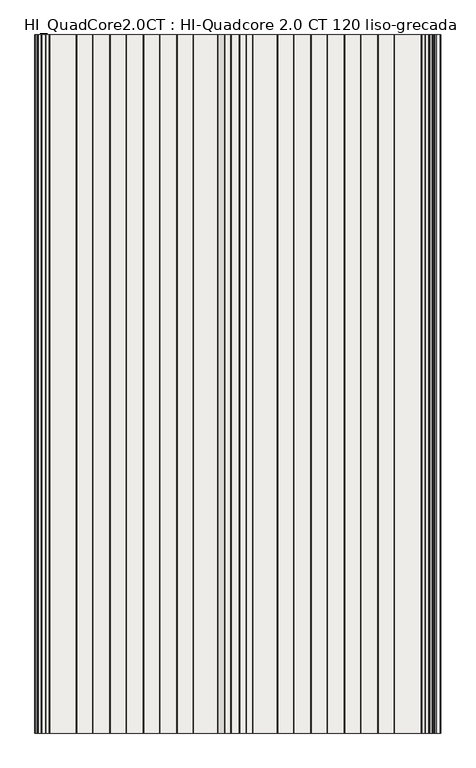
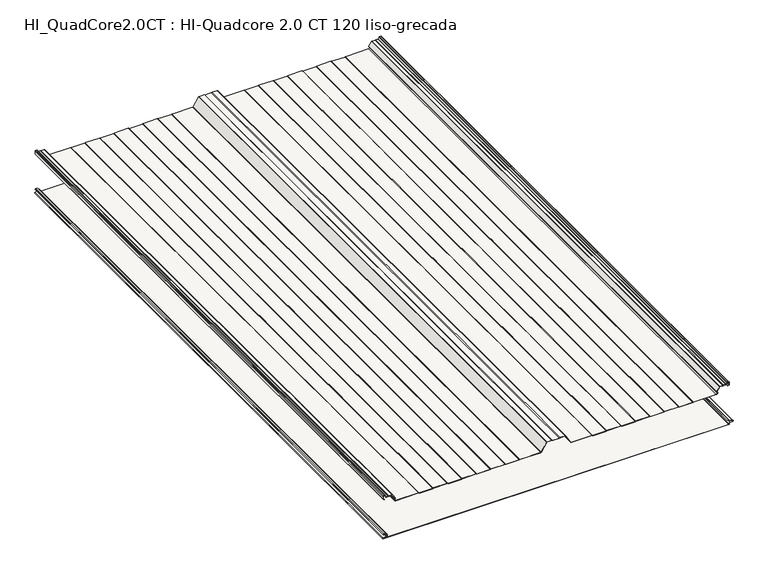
"""IFC4 building model written with IfcOpenShell, lengths in millimetres: slab geometry, HI_QuadCore2.0CT : HI-Quadcore 2.0 CT 120 liso-grecada."""

from ifc_helpers import new_model, si_unit, point, frame, frame_2d, origin, place, context, project, spatial, polyline, circle_curve, trimmed, segment, composite_curve, outline, extrude, source, transform, mapped, element, save
from ifc_brep_helpers import plane_surface, cylinder_surface, revolved_surface, advanced_brep


def hi_quadcore2_0ct_hi_quadcore_2_0_ct_120_liso_grecada_508893d8(model_context):
    return source(origin(), model_context, "Body", "SolidModel", [
        advanced_brep(
        [(1153.6125412, 0.0, 16.239302), (1151.6320413, 0.0, 14.2588021), (1153.3026044, 0.0, 12.2960661), (1161.7027672, 0.0, 10.9645747), (1161.6806488, 0.0, 5.2720118), (1151.7277556, 0.0, 3.7755366), (1152.0100062, 0.0, 0.0), (2297.9590685, 0.0, 0.0), (2300.1391392, 0.0, 2.1800708), (2302.6636211, 0.0, 5.0353254), (2310.9083654, 0.0, 6.0356531), (2310.9083654, 0.0, 10.2043469), (2300.9419234, 0.0, 11.413338), (2298.6324398, 0.0, 14.0237344), (2297.5187526, 0.0, 16.24), (2292.7624398, 0.0, 16.24), (2292.7624398, 0.0, 15.44), (2297.2282701, 0.0, 15.44), (2297.8324398, 0.0, 14.0237344), (2300.8450446, 0.0, 10.6192254), (2310.7843299, 0.0, 9.4135286), (2310.7843221, 0.0, 6.8264698), (2302.5664905, 0.0, 5.8294074), (2299.3391392, 0.0, 2.1800708), (2297.9590685, 0.0, 0.8), (1152.0100062, 0.0, 0.8), (1151.8467032, 0.0, 2.9844289), (1161.7995989, 0.0, 4.4809044), (1161.8278581, 0.0, 11.7547343), (1153.4279307, 0.0, 13.084535), (1152.4319301, 0.0, 14.2584682), (1153.6125693, 0.0, 15.4391074), (1157.510215, 0.0, 15.4391074), (1157.510215, 0.0, 16.239302), (1153.6125412, 2000.0, 16.239302), (1157.510215, 2000.0, 16.239302), (1157.510215, 2000.0, 15.4391074), (1153.6125693, 2000.0, 15.4391074), (1152.4319301, 2000.0, 14.2584682), (1153.4276302, 2000.0, 13.0866965), (1161.8278581, 2000.0, 11.7547343), (1161.7995989, 2000.0, 4.4809044), (1151.8467032, 2000.0, 2.9844289), (1152.0100062, 2000.0, 0.8), (2297.9590685, 2000.0, 0.8), (2299.3391392, 2000.0, 2.1800708), (2302.5664905, 2000.0, 5.8294074), (2310.7843221, 2000.0, 6.8264698), (2310.7843299, 2000.0, 9.4135286), (2300.8450446, 2000.0, 10.6192254), (2297.8324398, 2000.0, 14.0237344), (2297.2282701, 2000.0, 15.44), (2292.7624398, 2000.0, 15.44), (2292.7624398, 2000.0, 16.24), (2297.5187526, 2000.0, 16.24), (2298.6324398, 2000.0, 14.0237344), (2300.9419234, 2000.0, 11.413338), (2310.9083654, 2000.0, 10.2043469), (2310.9083654, 2000.0, 6.0356531), (2302.6636211, 2000.0, 5.0353254), (2300.1391392, 2000.0, 2.1800708), (2297.9590685, 2000.0, 0.0), (1152.0100062, 2000.0, 0.0), (1151.7277556, 2000.0, 3.7755366), (1161.6806488, 2000.0, 5.2720118), (1161.7027672, 2000.0, 10.9645747), (1153.3028397, 2000.0, 12.2943753), (1151.6320413, 2000.0, 14.2588021)],
        [
            (0, 1, circle_curve(frame((1153.6125412, 0.0, 14.2588021), z_axis=(0.0, -1.0, 0.0), x_axis=(1.0, 0.0, 0.0)), 1.9804999)),
            (1, 2, circle_curve(frame((1153.612237, 0.0, 14.2519163), z_axis=(0.0, -1.0, 0.0), x_axis=(1.0, 0.0, 0.0)), 1.9802076)),
            (2, 3),
            (3, 4, circle_curve(frame((1161.2524398, 0.0, 8.12), z_axis=(0.0, 1.0, 0.0), x_axis=(1.0, 0.0, 0.0)), 2.88)),
            (4, 5),
            (5, 6, circle_curve(frame((1152.0100062, 0.0, 1.8983185), z_axis=(0.0, -1.0, 0.0), x_axis=(1.0, 0.0, 0.0)), 1.8983185)),
            (6, 7),
            (7, 8, circle_curve(frame((2297.9590685, 0.0, 2.1800708), z_axis=(0.0, -1.0, 0.0), x_axis=(1.0, 0.0, 0.0)), 2.1800708)),
            (8, 9, circle_curve(frame((2303.0160638, 0.0, 2.1800708), z_axis=(0.0, 1.0, 0.0), x_axis=(1.0, 0.0, 0.0)), 2.8769246)),
            (9, 10),
            (10, 11, circle_curve(frame((2310.5224398, 0.0, 8.12), z_axis=(0.0, -1.0, 0.0), x_axis=(1.0, 0.0, 0.0)), 2.1197737)),
            (11, 12),
            (12, 13, circle_curve(frame((2301.2624398, 0.0, 14.0237344), z_axis=(0.0, 1.0, 0.0), x_axis=(1.0, 0.0, 0.0)), 2.63)),
            (13, 14, circle_curve(frame((2295.8703839, 0.0, 14.0237344), z_axis=(0.0, -1.0, 0.0), x_axis=(1.0, 0.0, 0.0)), 2.7620559)),
            (14, 15),
            (15, 16),
            (16, 17),
            (17, 18, circle_curve(frame((2295.8703839, 0.0, 14.0237344), z_axis=(0.0, 1.0, 0.0), x_axis=(1.0, 0.0, 0.0)), 1.9620559)),
            (18, 19, circle_curve(frame((2301.2624398, 0.0, 14.0237344), z_axis=(0.0, -1.0, 0.0), x_axis=(1.0, 0.0, 0.0)), 3.43)),
            (19, 20),
            (20, 21, circle_curve(frame((2310.5224398, 0.0, 8.12), z_axis=(0.0, 1.0, 0.0), x_axis=(1.0, 0.0, 0.0)), 1.3197737)),
            (21, 22),
            (22, 23, circle_curve(frame((2303.0160638, 0.0, 2.1800708), z_axis=(0.0, -1.0, 0.0), x_axis=(1.0, 0.0, 0.0)), 3.6769246)),
            (23, 24, circle_curve(frame((2297.9590685, 0.0, 2.1800708), z_axis=(0.0, 1.0, 0.0), x_axis=(1.0, 0.0, 0.0)), 1.3800708)),
            (24, 25),
            (25, 26, circle_curve(frame((1152.0100062, 0.0, 1.8983185), z_axis=(0.0, 1.0, 0.0), x_axis=(1.0, 0.0, 0.0)), 1.0983185)),
            (26, 27),
            (27, 28, circle_curve(frame((1161.2524398, 0.0, 8.12), z_axis=(0.0, -1.0, 0.0), x_axis=(1.0, 0.0, 0.0)), 3.68)),
            (28, 29),
            (29, 30, circle_curve(frame((1153.6121809, 0.0, 14.2524448), z_axis=(0.0, 1.0, 0.0), x_axis=(1.0, 0.0, 0.0)), 1.1802661)),
            (30, 31, circle_curve(frame((1153.6125693, 0.0, 14.2584682), z_axis=(0.0, 1.0, 0.0), x_axis=(1.0, 0.0, 0.0)), 1.1806391)),
            (31, 32),
            (32, 33),
            (33, 0),
            (34, 35),
            (35, 36),
            (36, 37),
            (37, 38, circle_curve(frame((1153.6125693, 2000.0, 14.2584682), z_axis=(0.0, -1.0, 0.0), x_axis=(1.0, 0.0, 0.0)), 1.1806391)),
            (38, 39, circle_curve(frame((1153.6121809, 2000.0, 14.2524448), z_axis=(0.0, -1.0, 0.0), x_axis=(1.0, 0.0, 0.0)), 1.1802661)),
            (39, 40),
            (40, 41, circle_curve(frame((1161.2524398, 2000.0, 8.12), z_axis=(0.0, 1.0, 0.0), x_axis=(1.0, 0.0, 0.0)), 3.68)),
            (41, 42),
            (42, 43, circle_curve(frame((1152.0100062, 2000.0, 1.8983185), z_axis=(0.0, -1.0, 0.0), x_axis=(1.0, 0.0, 0.0)), 1.0983185)),
            (43, 44),
            (44, 45, circle_curve(frame((2297.9590685, 2000.0, 2.1800708), z_axis=(0.0, -1.0, 0.0), x_axis=(1.0, 0.0, 0.0)), 1.3800708)),
            (45, 46, circle_curve(frame((2303.0160638, 2000.0, 2.1800708), z_axis=(0.0, 1.0, 0.0), x_axis=(1.0, 0.0, 0.0)), 3.6769246)),
            (46, 47),
            (47, 48, circle_curve(frame((2310.5224398, 2000.0, 8.12), z_axis=(0.0, -1.0, 0.0), x_axis=(1.0, 0.0, 0.0)), 1.3197737)),
            (48, 49),
            (49, 50, circle_curve(frame((2301.2624398, 2000.0, 14.0237344), z_axis=(0.0, 1.0, 0.0), x_axis=(1.0, 0.0, 0.0)), 3.43)),
            (50, 51, circle_curve(frame((2295.8703839, 2000.0, 14.0237344), z_axis=(0.0, -1.0, 0.0), x_axis=(1.0, 0.0, 0.0)), 1.9620559)),
            (51, 52),
            (52, 53),
            (53, 54),
            (54, 55, circle_curve(frame((2295.8703839, 2000.0, 14.0237344), z_axis=(0.0, 1.0, 0.0), x_axis=(1.0, 0.0, 0.0)), 2.7620559)),
            (55, 56, circle_curve(frame((2301.2624398, 2000.0, 14.0237344), z_axis=(0.0, -1.0, 0.0), x_axis=(1.0, 0.0, 0.0)), 2.63)),
            (56, 57),
            (57, 58, circle_curve(frame((2310.5224398, 2000.0, 8.12), z_axis=(0.0, 1.0, 0.0), x_axis=(1.0, 0.0, 0.0)), 2.1197737)),
            (58, 59),
            (59, 60, circle_curve(frame((2303.0160638, 2000.0, 2.1800708), z_axis=(0.0, -1.0, 0.0), x_axis=(1.0, 0.0, 0.0)), 2.8769246)),
            (60, 61, circle_curve(frame((2297.9590685, 2000.0, 2.1800708), z_axis=(0.0, 1.0, 0.0), x_axis=(1.0, 0.0, 0.0)), 2.1800708)),
            (61, 62),
            (62, 63, circle_curve(frame((1152.0100062, 2000.0, 1.8983185), z_axis=(0.0, 1.0, 0.0), x_axis=(1.0, 0.0, 0.0)), 1.8983185)),
            (63, 64),
            (64, 65, circle_curve(frame((1161.2524398, 2000.0, 8.12), z_axis=(0.0, -1.0, 0.0), x_axis=(1.0, 0.0, 0.0)), 2.88)),
            (65, 66),
            (66, 67, circle_curve(frame((1153.612237, 2000.0, 14.2519163), z_axis=(0.0, 1.0, 0.0), x_axis=(1.0, 0.0, 0.0)), 1.9802076)),
            (67, 34, circle_curve(frame((1153.6125412, 2000.0, 14.2588021), z_axis=(0.0, 1.0, 0.0), x_axis=(1.0, 0.0, 0.0)), 1.9804999)),
            (0, 34),
            (67, 1),
            (66, 2),
            (65, 3),
            (64, 4),
            (63, 5),
            (62, 6),
            (61, 7),
            (60, 8),
            (59, 9),
            (58, 10),
            (57, 11),
            (56, 12),
            (55, 13),
            (54, 14),
            (53, 15),
            (52, 16),
            (51, 17),
            (50, 18),
            (49, 19),
            (48, 20),
            (47, 21),
            (46, 22),
            (45, 23),
            (44, 24),
            (43, 25),
            (42, 26),
            (41, 27),
            (40, 28),
            (39, 29),
            (38, 30),
            (37, 31),
            (36, 32),
            (35, 33),
        ],
        [
            plane_surface(frame((1155.5930411, 0.0, 14.2588021), z_axis=(0.0, -1.0, 0.0), x_axis=(0.0, 0.0, 1.0))),
            plane_surface(frame((1155.5930411, 2000.0, 14.2588021), z_axis=(0.0, 1.0, 0.0), x_axis=(0.0, 0.0, -1.0))),
            cylinder_surface(frame((1153.6125412, 2000.0, 14.2588021), z_axis=(0.0, -1.0, 0.0), x_axis=(1.0, 0.0, 0.0)), 1.9804999),
            cylinder_surface(frame((1153.612237, 2000.0, 14.2519163), z_axis=(0.0, -1.0, 0.0), x_axis=(1.0, 0.0, 0.0)), 1.9802076),
            plane_surface(frame((1153.3028397, 0.0, 12.2943753), z_axis=(-0.15636367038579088, 0.0, -0.9876995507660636), x_axis=(0.0, 1.0, 0.0))),
            revolved_surface(polyline([(1164.1324398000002, 2000.0, 8.12), (1164.1324398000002, 0.0, 8.12)]), (1161.2524398, 2000.0, 8.12), (0.0, 1.0, 0.0)),
            plane_surface(frame((1161.6806488, 0.0, 5.2720118), z_axis=(-0.14868453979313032, 0.0, 0.9888846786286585), x_axis=(0.0, 1.0, 0.0))),
            cylinder_surface(frame((1152.0100062, 2000.0, 1.8983185), z_axis=(0.0, -1.0, 0.0), x_axis=(1.0, 0.0, 0.0)), 1.8983185),
            plane_surface(frame((1152.0100062, 0.0, 0.0), z_axis=(0.0, 0.0, -1.0), x_axis=(0.0, 1.0, 0.0))),
            cylinder_surface(frame((2297.9590685, 2000.0, 2.1800708), z_axis=(0.0, -1.0, 0.0), x_axis=(1.0, 0.0, 0.0)), 2.1800708),
            revolved_surface(polyline([(2305.8929884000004, 2000.0, 2.1800708), (2305.8929884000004, 0.0, 2.1800708)]), (2303.0160638, 2000.0, 2.1800708), (0.0, 1.0, 0.0)),
            plane_surface(frame((2302.6636211, 0.0, 5.0353254), z_axis=(0.12044584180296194, 0.0, -0.9927198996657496), x_axis=(0.0, 1.0, 0.0))),
            cylinder_surface(frame((2310.5224398, 2000.0, 8.12), z_axis=(0.0, -1.0, 0.0), x_axis=(1.0, 0.0, 0.0)), 2.1197737),
            plane_surface(frame((2310.9083654, 0.0, 10.2043469), z_axis=(0.12042339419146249, 0.0, 0.9927226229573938), x_axis=(0.0, 1.0, 0.0))),
            revolved_surface(polyline([(2303.8924398, 2000.0, 14.0237344), (2303.8924398, 0.0, 14.0237344)]), (2301.2624398, 2000.0, 14.0237344), (0.0, 1.0, 0.0)),
            cylinder_surface(frame((2295.8703839, 2000.0, 14.0237344), z_axis=(0.0, -1.0, 0.0), x_axis=(1.0, 0.0, 0.0)), 2.7620559),
            plane_surface(frame((2297.5187526, 0.0, 16.24), z_axis=(0.0, 0.0, 1.0), x_axis=(0.0, 1.0, 0.0))),
            plane_surface(frame((2292.7624398, 0.0, 16.24), z_axis=(-1.0, 0.0, 0.0), x_axis=(0.0, 1.0, 0.0))),
            plane_surface(frame((2292.7624398, 0.0, 15.44), z_axis=(0.0, 0.0, -1.0), x_axis=(0.0, 1.0, 0.0))),
            revolved_surface(polyline([(2297.8324398, 2000.0, 14.0237344), (2297.8324398, 0.0, 14.0237344)]), (2295.8703839, 2000.0, 14.0237344), (0.0, 1.0, 0.0)),
            cylinder_surface(frame((2301.2624398, 2000.0, 14.0237344), z_axis=(0.0, -1.0, 0.0), x_axis=(1.0, 0.0, 0.0)), 3.43),
            plane_surface(frame((2300.8450446, 0.0, 10.6192254), z_axis=(-0.12042339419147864, 0.0, -0.9927226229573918), x_axis=(0.0, 1.0, 0.0))),
            revolved_surface(polyline([(2311.8422135, 2000.0, 8.12), (2311.8422135, 0.0, 8.12)]), (2310.5224398, 2000.0, 8.12), (0.0, 1.0, 0.0)),
            plane_surface(frame((2310.7843221, 0.0, 6.8264698), z_axis=(-0.12044584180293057, 0.0, 0.9927198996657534), x_axis=(0.0, 1.0, 0.0))),
            cylinder_surface(frame((2303.0160638, 2000.0, 2.1800708), z_axis=(0.0, -1.0, 0.0), x_axis=(1.0, 0.0, 0.0)), 3.6769246),
            revolved_surface(polyline([(2299.3391392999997, 2000.0, 2.1800708), (2299.3391392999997, 0.0, 2.1800708)]), (2297.9590685, 2000.0, 2.1800708), (0.0, 1.0, 0.0)),
            plane_surface(frame((2297.9590685, 0.0, 0.8), z_axis=(0.0, 0.0, 1.0), x_axis=(0.0, 1.0, 0.0))),
            revolved_surface(polyline([(1153.1083247, 2000.0, 1.8983185), (1153.1083247, 0.0, 1.8983185)]), (1152.0100062, 2000.0, 1.8983185), (0.0, 1.0, 0.0)),
            plane_surface(frame((1151.8467032, 0.0, 2.9844289), z_axis=(0.14868453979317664, 0.0, -0.9888846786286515), x_axis=(0.0, 1.0, 0.0))),
            cylinder_surface(frame((1161.2524398, 2000.0, 8.12), z_axis=(0.0, -1.0, 0.0), x_axis=(1.0, 0.0, 0.0)), 3.68),
            plane_surface(frame((1161.8278581, 0.0, 11.7547343), z_axis=(0.15636367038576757, 0.0, 0.9876995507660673), x_axis=(0.0, 1.0, 0.0))),
            revolved_surface(polyline([(1154.792447, 2000.0, 14.2524448), (1154.792447, 0.0, 14.2524448)]), (1153.6121809, 2000.0, 14.2524448), (0.0, 1.0, 0.0)),
            revolved_surface(polyline([(1154.7932084, 2000.0, 14.2584682), (1154.7932084, 0.0, 14.2584682)]), (1153.6125693, 2000.0, 14.2584682), (0.0, 1.0, 0.0)),
            plane_surface(frame((1153.6125693, 0.0, 15.4391074), z_axis=(0.0, 0.0, -1.0), x_axis=(0.0, 1.0, 0.0))),
            plane_surface(frame((1157.510215, 0.0, 15.4391074), z_axis=(1.0, 0.0, 0.0), x_axis=(0.0, 1.0, 0.0))),
            plane_surface(frame((1157.510215, 0.0, 16.239302), z_axis=(0.0, 0.0, 1.0), x_axis=(0.0, 1.0, 0.0))),
        ],
        [
            (0, [[1, 2, 3, 4, 5, 6, 7, 8, 9, 10, 11, 12, 13, 14, 15, 16, 17, 18, 19, 20, 21, 22, 23, 24, 25, 26, 27, 28, 29, 30, 31, 32, 33, 34]]),
            (1, [[35, 36, 37, 38, 39, 40, 41, 42, 43, 44, 45, 46, 47, 48, 49, 50, 51, 52, 53, 54, 55, 56, 57, 58, 59, 60, 61, 62, 63, 64, 65, 66, 67, 68]]),
            (2, [[-1, 69, -68, 70]]),
            (3, [[-2, -70, -67, 71]]),
            (4, [[-3, -71, -66, 72]]),
            (5, [[-4, -72, -65, 73]]),
            (6, [[-5, -73, -64, 74]]),
            (7, [[-6, -74, -63, 75]]),
            (8, [[-7, -75, -62, 76]]),
            (9, [[-8, -76, -61, 77]]),
            (10, [[-9, -77, -60, 78]]),
            (11, [[-10, -78, -59, 79]]),
            (12, [[-11, -79, -58, 80]]),
            (13, [[-12, -80, -57, 81]]),
            (14, [[-13, -81, -56, 82]]),
            (15, [[-14, -82, -55, 83]]),
            (16, [[-15, -83, -54, 84]]),
            (17, [[-16, -84, -53, 85]]),
            (18, [[-17, -85, -52, 86]]),
            (19, [[-18, -86, -51, 87]]),
            (20, [[-19, -87, -50, 88]]),
            (21, [[-20, -88, -49, 89]]),
            (22, [[-21, -89, -48, 90]]),
            (23, [[-22, -90, -47, 91]]),
            (24, [[-23, -91, -46, 92]]),
            (25, [[-24, -92, -45, 93]]),
            (26, [[-25, -93, -44, 94]]),
            (27, [[-26, -94, -43, 95]]),
            (28, [[-27, -95, -42, 96]]),
            (29, [[-28, -96, -41, 97]]),
            (30, [[-29, -97, -40, 98]]),
            (31, [[-30, -98, -39, 99]]),
            (32, [[-31, -99, -38, 100]]),
            (33, [[-32, -100, -37, 101]]),
            (34, [[-33, -101, -36, 102]]),
            (35, [[-34, -102, -35, -69]]),
        ],
    ),
        extrude(outline(composite_curve([segment(polyline([(137.9163804, 1151.3824194), (135.7425833, 1155.1475465), (136.4354036, 1155.5475465), (138.6669358, 1151.6824194), (148.1, 1151.6824194)]), True, "CONTINUOUS"), segment(trimmed(circle_curve(frame_2d((148.1, 1152.7824194)), 1.1), [point((148.1, 1151.6824194))], [point((149.2, 1152.7824194))], True, "CARTESIAN"), True, "CONTINUOUS"), segment(polyline([(149.2, 1152.7824194), (149.2, 1156.3760168)]), True, "CONTINUOUS"), segment(trimmed(circle_curve(frame_2d((148.1, 1156.3760168)), 1.1), [point((149.2, 1156.3760168))], [point((148.5209518, 1157.3922843))], True, "CARTESIAN"), True, "CONTINUOUS"), segment(polyline([(148.5209518, 1157.3922843), (144.0383476, 1159.2490397)]), True, "CONTINUOUS"), segment(trimmed(circle_curve(frame_2d((144.93, 1161.4016791)), 2.33), [point((144.0383476, 1159.2490397))], [point((142.6, 1161.4016791))], False, "CARTESIAN"), True, "CONTINUOUS"), segment(polyline([(142.6, 1161.4016791), (142.6, 1168.1276514), (141.8110374, 1169.8324194), (142.6, 1171.5371875), (142.6, 1180.8643848)]), True, "CONTINUOUS"), segment(trimmed(circle_curve(frame_2d((141.5, 1180.8643848)), 1.1), [point((142.6, 1180.8643848))], [point((142.1230469, 1181.7709236))], True, "CARTESIAN"), True, "CONTINUOUS"), segment(polyline([(142.1230469, 1181.7709236), (128.5361221, 1191.1089583)]), True, "CONTINUOUS"), segment(trimmed(circle_curve(frame_2d((127.9130752, 1190.2024195)), 1.1), [point((128.5361221, 1191.1089583))], [point((127.0692788, 1190.9081159))], True, "CARTESIAN"), True, "CONTINUOUS"), segment(polyline([(127.0692788, 1190.9081159), (126.2744555, 1189.9577511)]), True, "CONTINUOUS"), segment(trimmed(circle_curve(frame_2d((123.3, 1192.7795617)), 4.1), [point((126.2744555, 1189.9577511))], [point((119.2, 1192.7795617))], False, "CARTESIAN"), True, "CONTINUOUS"), segment(polyline([(119.2, 1192.7795617), (119.2, 1268.8832267), (118.2, 1270.6152775), (118.2, 1315.6495614), (119.2, 1317.3816122), (119.2, 1364.8832267), (118.2, 1366.6152775), (118.2, 1411.6495614), (119.2, 1413.3816122), (119.2, 1460.8832267), (118.2, 1462.6152775), (118.2, 1507.6495614), (119.2, 1509.3816122), (119.2, 1556.8832267), (118.2, 1558.6152775), (118.2, 1603.6495614), (119.2, 1605.3816122), (119.2, 1674.3619266)]), True, "CONTINUOUS"), segment(trimmed(circle_curve(frame_2d((121.53, 1674.3619266)), 2.33), [point((119.2, 1674.3619266))], [point((120.2833287, 1676.330355))], False, "CARTESIAN"), True, "CONTINUOUS"), segment(polyline([(120.2833287, 1676.330355), (148.6885573, 1694.3203331)]), True, "CONTINUOUS"), segment(trimmed(circle_curve(frame_2d((148.1, 1695.2496341)), 1.1), [point((148.6885573, 1694.3203331))], [point((149.2, 1695.2496341))], True, "CARTESIAN"), True, "CONTINUOUS"), segment(polyline([(149.2, 1695.2496341), (149.2, 1711.3832267), (147.7, 1713.9813029), (147.7, 1736.283536), (149.2, 1738.8816122), (149.2, 1755.0152048)]), True, "CONTINUOUS"), segment(trimmed(circle_curve(frame_2d((148.1, 1755.0152048)), 1.1), [point((149.2, 1755.0152048))], [point((148.6885573, 1755.9445057))], True, "CARTESIAN"), True, "CONTINUOUS"), segment(polyline([(148.6885573, 1755.9445057), (120.2833287, 1773.9344839)]), True, "CONTINUOUS"), segment(trimmed(circle_curve(frame_2d((121.53, 1775.9029123)), 2.33), [point((120.2833287, 1773.9344839))], [point((119.2, 1775.9029123))], False, "CARTESIAN"), True, "CONTINUOUS"), segment(polyline([(119.2, 1775.9029123), (119.2, 1844.8832267), (118.2, 1846.6152775), (118.2, 1891.6495614), (119.2, 1893.3816122), (119.2, 1940.8832267), (118.2, 1942.6152775), (118.2, 1987.6495614), (119.2, 1989.3816122), (119.2, 2036.8832267), (118.2, 2038.6152775), (118.2, 2083.6495614), (119.2, 2085.3816122), (119.2, 2132.8832267), (118.2, 2134.6152775), (118.2, 2179.6495614), (119.2, 2181.3816122), (119.2, 2257.4852773)]), True, "CONTINUOUS"), segment(trimmed(circle_curve(frame_2d((123.3, 2257.4852773)), 4.1), [point((119.2, 2257.4852773))], [point((126.2744554, 2260.3070878))], False, "CARTESIAN"), True, "CONTINUOUS"), segment(polyline([(126.2744554, 2260.3070878), (127.0692788, 2259.356723)]), True, "CONTINUOUS"), segment(trimmed(circle_curve(frame_2d((127.9130753, 2260.0624194)), 1.1), [point((127.0692788, 2259.356723))], [point((128.5361221, 2259.1558806))], True, "CARTESIAN"), True, "CONTINUOUS"), segment(polyline([(128.5361221, 2259.1558806), (142.1230469, 2268.4939153)]), True, "CONTINUOUS"), segment(trimmed(circle_curve(frame_2d((141.5, 2269.4004541)), 1.1), [point((142.1230469, 2268.4939153))], [point((142.6, 2269.4004541))], True, "CARTESIAN"), True, "CONTINUOUS"), segment(polyline([(142.6, 2269.4004541), (142.6, 2278.7276514), (141.8110374, 2280.4324194), (142.6, 2282.1371875), (142.6, 2288.8631598)]), True, "CONTINUOUS"), segment(trimmed(circle_curve(frame_2d((144.93, 2288.8631598)), 2.33), [point((142.6, 2288.8631598))], [point((144.0383476, 2291.0157992))], False, "CARTESIAN"), True, "CONTINUOUS"), segment(polyline([(144.0383476, 2291.0157992), (148.5209518, 2292.8725546)]), True, "CONTINUOUS"), segment(trimmed(circle_curve(frame_2d((148.1, 2293.8888221)), 1.1), [point((148.5209518, 2292.8725546))], [point((149.2, 2293.8888221))], True, "CARTESIAN"), True, "CONTINUOUS"), segment(polyline([(149.2, 2293.8888221), (149.2, 2297.4824194)]), True, "CONTINUOUS"), segment(trimmed(circle_curve(frame_2d((148.1, 2297.4824194)), 1.1), [point((149.2, 2297.4824194))], [point((148.1, 2298.5824194))], True, "CARTESIAN"), True, "CONTINUOUS"), segment(polyline([(148.1, 2298.5824194), (138.6669358, 2298.5824194), (136.4354036, 2294.7172924), (135.7425833, 2295.1172924), (137.9163804, 2298.8824194)]), True, "CONTINUOUS"), segment(trimmed(circle_curve(frame_2d((138.7824058, 2298.3824194)), 1.0), [point((137.9163804, 2298.8824194))], [point((138.7824058, 2299.3824194))], False, "CARTESIAN"), True, "CONTINUOUS"), segment(polyline([(138.7824058, 2299.3824194), (148.1, 2299.3824194)]), True, "CONTINUOUS"), segment(trimmed(circle_curve(frame_2d((148.1, 2297.4824194)), 1.9), [point((148.1, 2299.3824194))], [point((150.0, 2297.4824194))], False, "CARTESIAN"), True, "CONTINUOUS"), segment(polyline([(150.0, 2297.4824194), (150.0, 2293.8888221)]), True, "CONTINUOUS"), segment(trimmed(circle_curve(frame_2d((148.1, 2293.8888221)), 1.9), [point((150.0, 2293.8888221))], [point((148.8270985, 2292.133451))], False, "CARTESIAN"), True, "CONTINUOUS"), segment(polyline([(148.8270985, 2292.133451), (144.3444944, 2290.2766955)]), True, "CONTINUOUS"), segment(trimmed(circle_curve(frame_2d((144.93, 2288.8631598)), 1.53), [point((144.3444944, 2290.2766955))], [point((143.4, 2288.8631598))], True, "CARTESIAN"), True, "CONTINUOUS"), segment(polyline([(143.4, 2288.8631598), (143.4, 2281.9610429), (142.6925567, 2280.4324194), (143.4, 2278.903796), (143.4, 2269.4004541)]), True, "CONTINUOUS"), segment(trimmed(circle_curve(frame_2d((141.5, 2269.4004541)), 1.9), [point((143.4, 2269.4004541))], [point((142.5761719, 2267.8346144))], False, "CARTESIAN"), True, "CONTINUOUS"), segment(polyline([(142.5761719, 2267.8346144), (128.9892471, 2258.4965797)]), True, "CONTINUOUS"), segment(trimmed(circle_curve(frame_2d((127.9130753, 2260.0624194)), 1.9), [point((128.9892471, 2258.4965797))], [point((126.4556086, 2258.8434892))], False, "CARTESIAN"), True, "CONTINUOUS"), segment(polyline([(126.4556086, 2258.8434892), (125.6777166, 2259.7736094)]), True, "CONTINUOUS"), segment(trimmed(circle_curve(frame_2d((123.3, 2257.4852773)), 3.3), [point((125.6777166, 2259.7736094))], [point((120.0, 2257.4852773))], True, "CARTESIAN"), True, "CONTINUOUS"), segment(polyline([(120.0, 2257.4852773), (120.0, 2181.5691766)]), True, "CONTINUOUS"), segment(trimmed(circle_curve(frame_2d((118.5, 2181.5691766)), 1.5), [point((120.0, 2181.5691766))], [point((119.7990381, 2180.8191766))], False, "CARTESIAN"), True, "CONTINUOUS"), segment(polyline([(119.7990381, 2180.8191766), (119.0, 2179.435202), (119.0, 2134.8296369), (119.7990381, 2133.4456623)]), True, "CONTINUOUS"), segment(trimmed(circle_curve(frame_2d((118.5, 2132.6956623)), 1.5), [point((119.7990381, 2133.4456623))], [point((120.0, 2132.6956623))], False, "CARTESIAN"), True, "CONTINUOUS"), segment(polyline([(120.0, 2132.6956623), (120.0, 2085.5691766)]), True, "CONTINUOUS"), segment(trimmed(circle_curve(frame_2d((118.5, 2085.5691766)), 1.5), [point((120.0, 2085.5691766))], [point((119.7990381, 2084.8191766))], False, "CARTESIAN"), True, "CONTINUOUS"), segment(polyline([(119.7990381, 2084.8191766), (119.0, 2083.435202), (119.0, 2038.8296369), (119.7990381, 2037.4456623)]), True, "CONTINUOUS"), segment(trimmed(circle_curve(frame_2d((118.5, 2036.6956623)), 1.5), [point((119.7990381, 2037.4456623))], [point((120.0, 2036.6956623))], False, "CARTESIAN"), True, "CONTINUOUS"), segment(polyline([(120.0, 2036.6956623), (120.0, 1989.5691766)]), True, "CONTINUOUS"), segment(trimmed(circle_curve(frame_2d((118.5, 1989.5691766)), 1.5), [point((120.0, 1989.5691766))], [point((119.7990381, 1988.8191766))], False, "CARTESIAN"), True, "CONTINUOUS"), segment(polyline([(119.7990381, 1988.8191766), (119.0, 1987.435202), (119.0, 1942.8296369), (119.7990381, 1941.4456623)]), True, "CONTINUOUS"), segment(trimmed(circle_curve(frame_2d((118.5, 1940.6956623)), 1.5), [point((119.7990381, 1941.4456623))], [point((120.0, 1940.6956623))], False, "CARTESIAN"), True, "CONTINUOUS"), segment(polyline([(120.0, 1940.6956623), (120.0, 1893.5691766)]), True, "CONTINUOUS"), segment(trimmed(circle_curve(frame_2d((118.5, 1893.5691766)), 1.5), [point((120.0, 1893.5691766))], [point((119.7990381, 1892.8191766))], False, "CARTESIAN"), True, "CONTINUOUS"), segment(polyline([(119.7990381, 1892.8191766), (119.0, 1891.435202), (119.0, 1846.8296369), (119.7990381, 1845.4456623)]), True, "CONTINUOUS"), segment(trimmed(circle_curve(frame_2d((118.5, 1844.6956623)), 1.5), [point((119.7990381, 1845.4456623))], [point((120.0, 1844.6956623))], False, "CARTESIAN"), True, "CONTINUOUS"), segment(polyline([(120.0, 1844.6956623), (120.0, 1775.9029123)]), True, "CONTINUOUS"), segment(trimmed(circle_curve(frame_2d((121.53, 1775.9029123)), 1.53), [point((120.0, 1775.9029123))], [point((120.7113703, 1774.6103391))], True, "CARTESIAN"), True, "CONTINUOUS"), segment(polyline([(120.7113703, 1774.6103391), (149.116599, 1756.620361)]), True, "CONTINUOUS"), segment(trimmed(circle_curve(frame_2d((148.1, 1755.0152048)), 1.9), [point((149.116599, 1756.620361))], [point((150.0, 1755.0152048))], False, "CARTESIAN"), True, "CONTINUOUS"), segment(polyline([(150.0, 1755.0152048), (150.0, 1738.6672528), (148.5, 1736.0691766), (148.5, 1714.1956623), (150.0, 1711.5975861), (150.0, 1695.2496341)]), True, "CONTINUOUS"), segment(trimmed(circle_curve(frame_2d((148.1, 1695.2496341)), 1.9), [point((150.0, 1695.2496341))], [point((149.116599, 1693.6444779))], False, "CARTESIAN"), True, "CONTINUOUS"), segment(polyline([(149.116599, 1693.6444779), (120.7113703, 1675.6544998)]), True, "CONTINUOUS"), segment(trimmed(circle_curve(frame_2d((121.53, 1674.3619266)), 1.53), [point((120.7113703, 1675.6544998))], [point((120.0, 1674.3619266))], True, "CARTESIAN"), True, "CONTINUOUS"), segment(polyline([(120.0, 1674.3619266), (120.0, 1605.5691766)]), True, "CONTINUOUS"), segment(trimmed(circle_curve(frame_2d((118.5, 1605.5691766)), 1.5), [point((120.0, 1605.5691766))], [point((119.7990381, 1604.8191766))], False, "CARTESIAN"), True, "CONTINUOUS"), segment(polyline([(119.7990381, 1604.8191766), (119.0, 1603.435202), (119.0, 1558.8296369), (119.7990381, 1557.4456623)]), True, "CONTINUOUS"), segment(trimmed(circle_curve(frame_2d((118.5, 1556.6956623)), 1.5), [point((119.7990381, 1557.4456623))], [point((120.0, 1556.6956623))], False, "CARTESIAN"), True, "CONTINUOUS"), segment(polyline([(120.0, 1556.6956623), (120.0, 1509.5691766)]), True, "CONTINUOUS"), segment(trimmed(circle_curve(frame_2d((118.5, 1509.5691766)), 1.5), [point((120.0, 1509.5691766))], [point((119.7990381, 1508.8191766))], False, "CARTESIAN"), True, "CONTINUOUS"), segment(polyline([(119.7990381, 1508.8191766), (119.0, 1507.435202), (119.0, 1462.8296369), (119.7990381, 1461.4456623)]), True, "CONTINUOUS"), segment(trimmed(circle_curve(frame_2d((118.5, 1460.6956623)), 1.5), [point((119.7990381, 1461.4456623))], [point((120.0, 1460.6956623))], False, "CARTESIAN"), True, "CONTINUOUS"), segment(polyline([(120.0, 1460.6956623), (120.0, 1413.5691766)]), True, "CONTINUOUS"), segment(trimmed(circle_curve(frame_2d((118.5, 1413.5691766)), 1.5), [point((120.0, 1413.5691766))], [point((119.7990381, 1412.8191766))], False, "CARTESIAN"), True, "CONTINUOUS"), segment(polyline([(119.7990381, 1412.8191766), (119.0, 1411.435202), (119.0, 1366.8296369), (119.7990381, 1365.4456623)]), True, "CONTINUOUS"), segment(trimmed(circle_curve(frame_2d((118.5, 1364.6956623)), 1.5), [point((119.7990381, 1365.4456623))], [point((120.0, 1364.6956623))], False, "CARTESIAN"), True, "CONTINUOUS"), segment(polyline([(120.0, 1364.6956623), (120.0, 1317.5691766)]), True, "CONTINUOUS"), segment(trimmed(circle_curve(frame_2d((118.5, 1317.5691766)), 1.5), [point((120.0, 1317.5691766))], [point((119.7990381, 1316.8191766))], False, "CARTESIAN"), True, "CONTINUOUS"), segment(polyline([(119.7990381, 1316.8191766), (119.0, 1315.435202), (119.0, 1270.8296369), (119.7990381, 1269.4456623)]), True, "CONTINUOUS"), segment(trimmed(circle_curve(frame_2d((118.5, 1268.6956623)), 1.5), [point((119.7990381, 1269.4456623))], [point((120.0, 1268.6956623))], False, "CARTESIAN"), True, "CONTINUOUS"), segment(polyline([(120.0, 1268.6956623), (120.0, 1192.7795617)]), True, "CONTINUOUS"), segment(trimmed(circle_curve(frame_2d((123.3, 1192.7795617)), 3.3), [point((120.0, 1192.7795617))], [point((125.6777166, 1190.4912296))], True, "CARTESIAN"), True, "CONTINUOUS"), segment(polyline([(125.6777166, 1190.4912296), (126.4556086, 1191.4213497)]), True, "CONTINUOUS"), segment(trimmed(circle_curve(frame_2d((127.9130752, 1190.2024195)), 1.9), [point((126.4556086, 1191.4213497))], [point((128.9892471, 1191.7682592))], False, "CARTESIAN"), True, "CONTINUOUS"), segment(polyline([(128.9892471, 1191.7682592), (142.5761719, 1182.4302246)]), True, "CONTINUOUS"), segment(trimmed(circle_curve(frame_2d((141.5, 1180.8643848)), 1.9), [point((142.5761719, 1182.4302246))], [point((143.4, 1180.8643848))], False, "CARTESIAN"), True, "CONTINUOUS"), segment(polyline([(143.4, 1180.8643848), (143.4, 1171.3610429), (142.6925567, 1169.8324194), (143.4, 1168.303796), (143.4, 1161.4016791)]), True, "CONTINUOUS"), segment(trimmed(circle_curve(frame_2d((144.93, 1161.4016791)), 1.53), [point((143.4, 1161.4016791))], [point((144.3444944, 1159.9881434))], True, "CARTESIAN"), True, "CONTINUOUS"), segment(polyline([(144.3444944, 1159.9881434), (148.8270985, 1158.1313879)]), True, "CONTINUOUS"), segment(trimmed(circle_curve(frame_2d((148.1, 1156.3760168)), 1.9), [point((148.8270985, 1158.1313879))], [point((150.0, 1156.3760168))], False, "CARTESIAN"), True, "CONTINUOUS"), segment(polyline([(150.0, 1156.3760168), (150.0, 1152.7824194)]), True, "CONTINUOUS"), segment(trimmed(circle_curve(frame_2d((148.1, 1152.7824194)), 1.9), [point((150.0, 1152.7824194))], [point((148.1, 1150.8824194))], False, "CARTESIAN"), True, "CONTINUOUS"), segment(polyline([(148.1, 1150.8824194), (138.7824058, 1150.8824194)]), True, "CONTINUOUS"), segment(trimmed(circle_curve(frame_2d((138.7824058, 1151.8824194)), 1.0), [point((138.7824058, 1150.8824194))], [point((137.9163804, 1151.3824194))], False, "CARTESIAN"), True, "CONTINUOUS")], self_intersect=False)), frame((0.0, 0.0, 0.0), z_axis=(0.0, 1.0, 0.0), x_axis=(0.0, 0.0, 1.0)), (0.0, 0.0, 1.0), 2000.0),
    ])


if __name__ == "__main__":
    model = new_model("IFC4")
    model_context = context("Model", 3, world=origin())
    ifc_project = project(units=[si_unit("LENGTHUNIT", "METRE", prefix="MILLI")], contexts=[model_context])
    site = spatial("IfcSite", under=ifc_project)
    building = spatial("IfcBuilding", under=site)
    placement = place(None, origin())
    hi_quadcore2_0ct_hi_quadcore_2_0_ct_120_liso_grecada_shape = hi_quadcore2_0ct_hi_quadcore_2_0_ct_120_liso_grecada_508893d8(model_context)
    element("IfcSlab", 1, ObjectType="HI_QuadCore2.0CT : HI-Quadcore 2.0 CT 120 liso-grecada", at=placement, inside=building, context=model_context, shape_type="MappedRepresentation", body=[
        mapped(hi_quadcore2_0ct_hi_quadcore_2_0_ct_120_liso_grecada_shape, transform((0.0, 0.0, 0.0), x_axis=(1.0, 0.0, 0.0), y_axis=(0.0, 1.0, 0.0), z_axis=(0.0, 0.0, 1.0))),
    ])
    save(model, "model.ifc")
